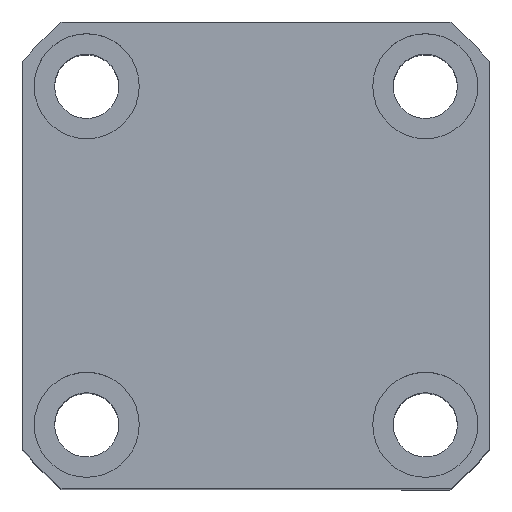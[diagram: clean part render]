
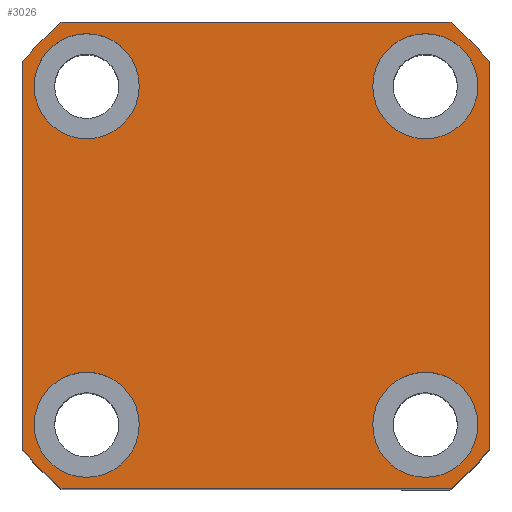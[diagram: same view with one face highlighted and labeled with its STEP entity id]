
A CAD part, top view. The second image highlights one B-rep face of the part: STEP entity #3026.
In plain terms, the highlighted planar face has unit normal (0, 0, 1).
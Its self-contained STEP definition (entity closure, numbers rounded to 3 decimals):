
#85 = CIRCLE ( 'NONE', #942, 9. ) ;
#243 = LINE ( 'NONE', #5534, #508 ) ;
#382 = CARTESIAN_POINT ( 'NONE',  ( 0., 0., 50. ) ) ;
#508 = VECTOR ( 'NONE', #4638, 1000. ) ;
#510 = AXIS2_PLACEMENT_3D ( 'NONE', #9679, #2137, #4782 ) ;
#531 = PLANE ( 'NONE',  #7551 ) ;
#541 = EDGE_LOOP ( 'NONE', ( #8836, #712 ) ) ;
#712 = ORIENTED_EDGE ( 'NONE', *, *, #10231, .F. ) ;
#729 = DIRECTION ( 'NONE',  ( 0., 0., 1. ) ) ;
#928 = ORIENTED_EDGE ( 'NONE', *, *, #1383, .T. ) ;
#942 = AXIS2_PLACEMENT_3D ( 'NONE', #5957, #1031, #5197 ) ;
#946 = EDGE_CURVE ( 'NONE', #6968, #8715, #2267, .T. ) ;
#1031 = DIRECTION ( 'NONE',  ( 0., 0., 1. ) ) ;
#1042 = CARTESIAN_POINT ( 'NONE',  ( 38., -29., 50. ) ) ;
#1100 = EDGE_LOOP ( 'NONE', ( #3914, #7255 ) ) ;
#1118 = CIRCLE ( 'NONE', #510, 9. ) ;
#1125 = VECTOR ( 'NONE', #8383, 1000. ) ;
#1205 = VERTEX_POINT ( 'NONE', #10252 ) ;
#1309 = VERTEX_POINT ( 'NONE', #7846 ) ;
#1373 = CIRCLE ( 'NONE', #6627, 52. ) ;
#1383 = EDGE_CURVE ( 'NONE', #4613, #1309, #1859, .T. ) ;
#1413 = DIRECTION ( 'NONE',  ( 0., 0., 1. ) ) ;
#1452 = EDGE_LOOP ( 'NONE', ( #9463, #2132 ) ) ;
#1530 = DIRECTION ( 'NONE',  ( 1., 0., 0. ) ) ;
#1661 = FACE_BOUND ( 'NONE', #1100, .T. ) ;
#1669 = EDGE_CURVE ( 'NONE', #3673, #2444, #8557, .T. ) ;
#1814 = DIRECTION ( 'NONE',  ( 1., 0., 0. ) ) ;
#1859 = LINE ( 'NONE', #3707, #3523 ) ;
#1995 = AXIS2_PLACEMENT_3D ( 'NONE', #2274, #4584, #5475 ) ;
#2070 = DIRECTION ( 'NONE',  ( 1., 0., 0. ) ) ;
#2073 = CARTESIAN_POINT ( 'NONE',  ( 40., 33.226, 50. ) ) ;
#2115 = CARTESIAN_POINT ( 'NONE',  ( -38., -29., 50. ) ) ;
#2117 = VERTEX_POINT ( 'NONE', #8098 ) ;
#2132 = ORIENTED_EDGE ( 'NONE', *, *, #9730, .F. ) ;
#2137 = DIRECTION ( 'NONE',  ( 0., 0., 1. ) ) ;
#2141 = CIRCLE ( 'NONE', #6383, 9. ) ;
#2151 = DIRECTION ( 'NONE',  ( 0., 0., 1. ) ) ;
#2250 = DIRECTION ( 'NONE',  ( 0., 1., 0. ) ) ;
#2261 = VERTEX_POINT ( 'NONE', #9152 ) ;
#2267 = CIRCLE ( 'NONE', #9657, 9. ) ;
#2274 = CARTESIAN_POINT ( 'NONE',  ( 0., 0., 50. ) ) ;
#2429 = EDGE_CURVE ( 'NONE', #5260, #2117, #4788, .T. ) ;
#2432 = ORIENTED_EDGE ( 'NONE', *, *, #7217, .T. ) ;
#2444 = VERTEX_POINT ( 'NONE', #1042 ) ;
#2458 = FACE_BOUND ( 'NONE', #541, .T. ) ;
#2545 = CIRCLE ( 'NONE', #10320, 9. ) ;
#2589 = EDGE_CURVE ( 'NONE', #4504, #5260, #6505, .T. ) ;
#2700 = CARTESIAN_POINT ( 'NONE',  ( 29., 29., 50. ) ) ;
#3026 = ADVANCED_FACE ( 'NONE', ( #9161, #2458, #1661, #7443, #3858 ), #531, .T. ) ;
#3124 = CARTESIAN_POINT ( 'NONE',  ( -29., 29., 50. ) ) ;
#3160 = DIRECTION ( 'NONE',  ( 1., 0., 0. ) ) ;
#3246 = DIRECTION ( 'NONE',  ( 1., 0., 0. ) ) ;
#3261 = CARTESIAN_POINT ( 'NONE',  ( -38., 29., 50. ) ) ;
#3368 = VECTOR ( 'NONE', #2250, 1000. ) ;
#3522 = CARTESIAN_POINT ( 'NONE',  ( 33.226, 40., 50. ) ) ;
#3523 = VECTOR ( 'NONE', #8058, 1000. ) ;
#3535 = EDGE_CURVE ( 'NONE', #7133, #4613, #1373, .T. ) ;
#3663 = EDGE_CURVE ( 'NONE', #1205, #2261, #1118, .T. ) ;
#3673 = VERTEX_POINT ( 'NONE', #8887 ) ;
#3707 = CARTESIAN_POINT ( 'NONE',  ( -33.226, 40., 50. ) ) ;
#3716 = DIRECTION ( 'NONE',  ( 0., 0., 1. ) ) ;
#3748 = AXIS2_PLACEMENT_3D ( 'NONE', #2700, #7749, #6886 ) ;
#3776 = VERTEX_POINT ( 'NONE', #7334 ) ;
#3858 = FACE_OUTER_BOUND ( 'NONE', #9349, .T. ) ;
#3906 = DIRECTION ( 'NONE',  ( 0., 0., 1. ) ) ;
#3914 = ORIENTED_EDGE ( 'NONE', *, *, #946, .F. ) ;
#4068 = CARTESIAN_POINT ( 'NONE',  ( 33.226, -40., 50. ) ) ;
#4153 = CARTESIAN_POINT ( 'NONE',  ( -20., 29., 50. ) ) ;
#4446 = EDGE_LOOP ( 'NONE', ( #10127, #9118 ) ) ;
#4449 = CIRCLE ( 'NONE', #8131, 52. ) ;
#4457 = EDGE_CURVE ( 'NONE', #8715, #6968, #4900, .T. ) ;
#4504 = VERTEX_POINT ( 'NONE', #7238 ) ;
#4520 = DIRECTION ( 'NONE',  ( 0., 0., 1. ) ) ;
#4584 = DIRECTION ( 'NONE',  ( 0., 0., 1. ) ) ;
#4613 = VERTEX_POINT ( 'NONE', #3522 ) ;
#4638 = DIRECTION ( 'NONE',  ( 0., -1., 0. ) ) ;
#4782 = DIRECTION ( 'NONE',  ( 1., 0., 0. ) ) ;
#4788 = CIRCLE ( 'NONE', #9562, 52. ) ;
#4900 = CIRCLE ( 'NONE', #9516, 9. ) ;
#4947 = EDGE_CURVE ( 'NONE', #5640, #4504, #9376, .T. ) ;
#5194 = CARTESIAN_POINT ( 'NONE',  ( 0., 0., 50. ) ) ;
#5197 = DIRECTION ( 'NONE',  ( 1., 0., 0. ) ) ;
#5260 = VERTEX_POINT ( 'NONE', #4068 ) ;
#5444 = EDGE_CURVE ( 'NONE', #3776, #5780, #85, .T. ) ;
#5475 = DIRECTION ( 'NONE',  ( 1., 0., 0. ) ) ;
#5534 = CARTESIAN_POINT ( 'NONE',  ( -40., 33.226, 50. ) ) ;
#5640 = VERTEX_POINT ( 'NONE', #10281 ) ;
#5667 = CARTESIAN_POINT ( 'NONE',  ( -29., 29., 50. ) ) ;
#5780 = VERTEX_POINT ( 'NONE', #2115 ) ;
#5957 = CARTESIAN_POINT ( 'NONE',  ( -29., -29., 50. ) ) ;
#6171 = ORIENTED_EDGE ( 'NONE', *, *, #3535, .T. ) ;
#6343 = ORIENTED_EDGE ( 'NONE', *, *, #2429, .T. ) ;
#6383 = AXIS2_PLACEMENT_3D ( 'NONE', #9957, #10714, #3160 ) ;
#6418 = CARTESIAN_POINT ( 'NONE',  ( 0., 0., 50. ) ) ;
#6468 = CIRCLE ( 'NONE', #3748, 9. ) ;
#6503 = CARTESIAN_POINT ( 'NONE',  ( -40., 33.226, 50. ) ) ;
#6505 = LINE ( 'NONE', #6804, #1125 ) ;
#6627 = AXIS2_PLACEMENT_3D ( 'NONE', #382, #3716, #9648 ) ;
#6663 = CARTESIAN_POINT ( 'NONE',  ( 29., -29., 50. ) ) ;
#6804 = CARTESIAN_POINT ( 'NONE',  ( -33.226, -40., 50. ) ) ;
#6886 = DIRECTION ( 'NONE',  ( 1., 0., 0. ) ) ;
#6968 = VERTEX_POINT ( 'NONE', #4153 ) ;
#7086 = DIRECTION ( 'NONE',  ( 0., 0., 1. ) ) ;
#7090 = ORIENTED_EDGE ( 'NONE', *, *, #10862, .T. ) ;
#7099 = AXIS2_PLACEMENT_3D ( 'NONE', #7857, #7086, #2070 ) ;
#7133 = VERTEX_POINT ( 'NONE', #2073 ) ;
#7212 = EDGE_CURVE ( 'NONE', #2117, #7133, #10334, .T. ) ;
#7217 = EDGE_CURVE ( 'NONE', #10261, #5640, #243, .T. ) ;
#7238 = CARTESIAN_POINT ( 'NONE',  ( -33.226, -40., 50. ) ) ;
#7255 = ORIENTED_EDGE ( 'NONE', *, *, #4457, .F. ) ;
#7334 = CARTESIAN_POINT ( 'NONE',  ( -20., -29., 50. ) ) ;
#7443 = FACE_BOUND ( 'NONE', #1452, .T. ) ;
#7551 = AXIS2_PLACEMENT_3D ( 'NONE', #6418, #2151, #8113 ) ;
#7735 = ORIENTED_EDGE ( 'NONE', *, *, #4947, .T. ) ;
#7749 = DIRECTION ( 'NONE',  ( 0., 0., 1. ) ) ;
#7801 = CARTESIAN_POINT ( 'NONE',  ( 0., 0., 50. ) ) ;
#7846 = CARTESIAN_POINT ( 'NONE',  ( -33.226, 40., 50. ) ) ;
#7857 = CARTESIAN_POINT ( 'NONE',  ( 29., -29., 50. ) ) ;
#8058 = DIRECTION ( 'NONE',  ( -1., 0., 0. ) ) ;
#8098 = CARTESIAN_POINT ( 'NONE',  ( 40., -33.226, 50. ) ) ;
#8113 = DIRECTION ( 'NONE',  ( 1., 0., 0. ) ) ;
#8131 = AXIS2_PLACEMENT_3D ( 'NONE', #5194, #8523, #1814 ) ;
#8383 = DIRECTION ( 'NONE',  ( 1., 0., 0. ) ) ;
#8523 = DIRECTION ( 'NONE',  ( 0., 0., 1. ) ) ;
#8557 = CIRCLE ( 'NONE', #7099, 9. ) ;
#8568 = ORIENTED_EDGE ( 'NONE', *, *, #7212, .T. ) ;
#8715 = VERTEX_POINT ( 'NONE', #3261 ) ;
#8836 = ORIENTED_EDGE ( 'NONE', *, *, #5444, .F. ) ;
#8887 = CARTESIAN_POINT ( 'NONE',  ( 20., -29., 50. ) ) ;
#8920 = CARTESIAN_POINT ( 'NONE',  ( 40., 33.226, 50. ) ) ;
#9118 = ORIENTED_EDGE ( 'NONE', *, *, #1669, .F. ) ;
#9152 = CARTESIAN_POINT ( 'NONE',  ( 20., 29., 50. ) ) ;
#9161 = FACE_BOUND ( 'NONE', #4446, .T. ) ;
#9349 = EDGE_LOOP ( 'NONE', ( #7090, #2432, #7735, #9607, #6343, #8568, #6171, #928 ) ) ;
#9376 = CIRCLE ( 'NONE', #1995, 52. ) ;
#9463 = ORIENTED_EDGE ( 'NONE', *, *, #3663, .F. ) ;
#9516 = AXIS2_PLACEMENT_3D ( 'NONE', #3124, #3906, #10677 ) ;
#9562 = AXIS2_PLACEMENT_3D ( 'NONE', #7801, #4520, #10402 ) ;
#9607 = ORIENTED_EDGE ( 'NONE', *, *, #2589, .T. ) ;
#9648 = DIRECTION ( 'NONE',  ( 1., 0., 0. ) ) ;
#9655 = EDGE_CURVE ( 'NONE', #2444, #3673, #2545, .T. ) ;
#9657 = AXIS2_PLACEMENT_3D ( 'NONE', #5667, #1413, #1530 ) ;
#9679 = CARTESIAN_POINT ( 'NONE',  ( 29., 29., 50. ) ) ;
#9730 = EDGE_CURVE ( 'NONE', #2261, #1205, #6468, .T. ) ;
#9957 = CARTESIAN_POINT ( 'NONE',  ( -29., -29., 50. ) ) ;
#10127 = ORIENTED_EDGE ( 'NONE', *, *, #9655, .F. ) ;
#10231 = EDGE_CURVE ( 'NONE', #5780, #3776, #2141, .T. ) ;
#10252 = CARTESIAN_POINT ( 'NONE',  ( 38., 29., 50. ) ) ;
#10261 = VERTEX_POINT ( 'NONE', #6503 ) ;
#10281 = CARTESIAN_POINT ( 'NONE',  ( -40., -33.226, 50. ) ) ;
#10320 = AXIS2_PLACEMENT_3D ( 'NONE', #6663, #729, #3246 ) ;
#10334 = LINE ( 'NONE', #8920, #3368 ) ;
#10402 = DIRECTION ( 'NONE',  ( 1., 0., 0. ) ) ;
#10677 = DIRECTION ( 'NONE',  ( 1., 0., 0. ) ) ;
#10714 = DIRECTION ( 'NONE',  ( 0., 0., 1. ) ) ;
#10862 = EDGE_CURVE ( 'NONE', #1309, #10261, #4449, .T. ) ;
